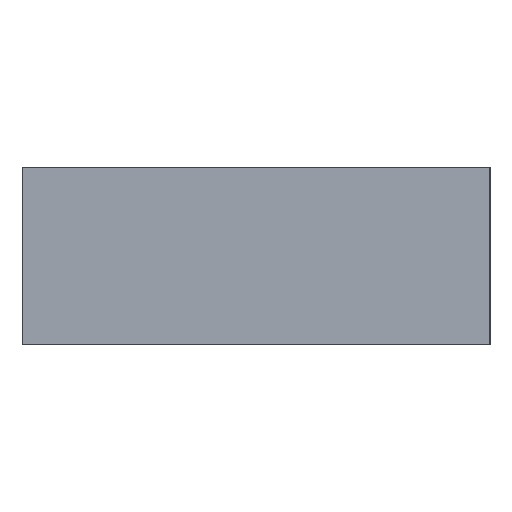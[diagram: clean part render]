
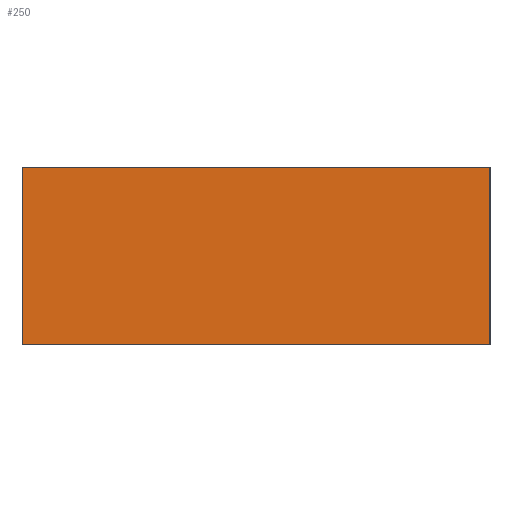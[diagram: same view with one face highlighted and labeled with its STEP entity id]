
A CAD part, left-side view. The second image highlights one B-rep face of the part: STEP entity #250.
In plain terms, the highlighted planar face has unit normal (-1, 0, 0).
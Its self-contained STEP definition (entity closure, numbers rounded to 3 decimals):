
#207=CARTESIAN_POINT('',(-56.249,21.294,18.));
#208=DIRECTION('',(1.,0.,0.));
#209=DIRECTION('',(0.,0.,-1.));
#210=AXIS2_PLACEMENT_3D('',#207,#208,#209);
#211=PLANE('',#210);
#212=CARTESIAN_POINT('',(-56.249,21.294,0.));
#213=VERTEX_POINT('',#212);
#214=CARTESIAN_POINT('',(-56.249,-26.116,0.));
#215=VERTEX_POINT('',#214);
#216=CARTESIAN_POINT('',(-56.249,21.294,0.));
#217=CARTESIAN_POINT('',(-56.249,5.491,0.));
#218=CARTESIAN_POINT('',(-56.249,-10.312,0.));
#219=CARTESIAN_POINT('',(-56.249,-26.116,0.));
#220=B_SPLINE_CURVE_WITH_KNOTS('',3,(#216,#217,#218,#219),.UNSPECIFIED.,.F.,.F.,(4,4),(0.,1.),.UNSPECIFIED.);
#221=EDGE_CURVE('',#213,#215,#220,.T.);
#222=ORIENTED_EDGE('',*,*,#221,.T.);
#223=CARTESIAN_POINT('',(-56.249,-26.116,18.));
#224=VERTEX_POINT('',#223);
#225=CARTESIAN_POINT('',(-56.249,-26.116,18.));
#226=CARTESIAN_POINT('',(-56.249,-26.116,12.));
#227=CARTESIAN_POINT('',(-56.249,-26.116,6.));
#228=CARTESIAN_POINT('',(-56.249,-26.116,0.));
#229=B_SPLINE_CURVE_WITH_KNOTS('',3,(#225,#226,#227,#228),.UNSPECIFIED.,.F.,.F.,(4,4),(0.,1.),.UNSPECIFIED.);
#230=EDGE_CURVE('',#224,#215,#229,.T.);
#231=ORIENTED_EDGE('',*,*,#230,.F.);
#232=CARTESIAN_POINT('',(-56.249,21.294,18.));
#233=VERTEX_POINT('',#232);
#234=CARTESIAN_POINT('',(-56.249,21.294,18.));
#235=CARTESIAN_POINT('',(-56.249,5.491,18.));
#236=CARTESIAN_POINT('',(-56.249,-10.312,18.));
#237=CARTESIAN_POINT('',(-56.249,-26.116,18.));
#238=B_SPLINE_CURVE_WITH_KNOTS('',3,(#234,#235,#236,#237),.UNSPECIFIED.,.F.,.F.,(4,4),(0.,1.),.UNSPECIFIED.);
#239=EDGE_CURVE('',#233,#224,#238,.T.);
#240=ORIENTED_EDGE('',*,*,#239,.F.);
#241=CARTESIAN_POINT('',(-56.249,21.294,18.));
#242=CARTESIAN_POINT('',(-56.249,21.294,12.));
#243=CARTESIAN_POINT('',(-56.249,21.294,6.));
#244=CARTESIAN_POINT('',(-56.249,21.294,0.));
#245=B_SPLINE_CURVE_WITH_KNOTS('',3,(#241,#242,#243,#244),.UNSPECIFIED.,.F.,.F.,(4,4),(0.,1.),.UNSPECIFIED.);
#246=EDGE_CURVE('',#233,#213,#245,.T.);
#247=ORIENTED_EDGE('',*,*,#246,.T.);
#248=EDGE_LOOP('',(#222,#231,#240,#247));
#249=FACE_BOUND('',#248,.T.);
#250=ADVANCED_FACE('',(#249),#211,.F.);
